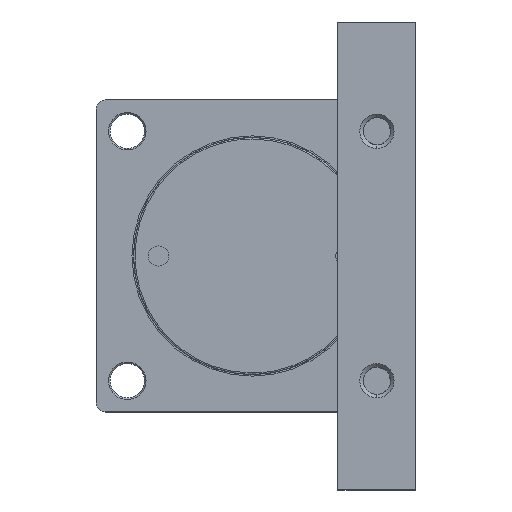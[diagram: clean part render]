
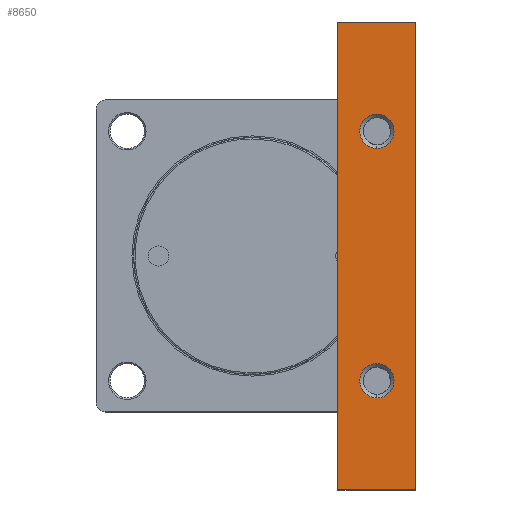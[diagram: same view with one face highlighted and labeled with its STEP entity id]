
A CAD part, left-side view. The second image highlights one B-rep face of the part: STEP entity #8650.
In plain terms, the highlighted planar face has unit normal (1, 0, 0).
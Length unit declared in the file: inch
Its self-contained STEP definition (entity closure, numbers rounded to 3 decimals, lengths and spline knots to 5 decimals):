
#357 = VECTOR ( 'NONE', #8377, 39.37008 ) ;
#673 = CARTESIAN_POINT ( 'NONE',  ( -3.3622, -4.13386, 5.90551 ) ) ;
#699 = ORIENTED_EDGE ( 'NONE', *, *, #5279, .T. ) ;
#783 = CIRCLE ( 'NONE', #12707, 0.43307 ) ;
#1022 = VERTEX_POINT ( 'NONE', #14701 ) ;
#1155 = CIRCLE ( 'NONE', #5829, 0.43307 ) ;
#1207 = FACE_BOUND ( 'NONE', #3628, .T. ) ;
#1228 = ORIENTED_EDGE ( 'NONE', *, *, #7526, .T. ) ;
#1531 = ORIENTED_EDGE ( 'NONE', *, *, #4259, .T. ) ;
#1683 = ORIENTED_EDGE ( 'NONE', *, *, #7074, .T. ) ;
#2587 = ORIENTED_EDGE ( 'NONE', *, *, #5501, .T. ) ;
#2954 = FACE_OUTER_BOUND ( 'NONE', #3356, .T. ) ;
#3356 = EDGE_LOOP ( 'NONE', ( #7929, #8301, #4352, #1683 ) ) ;
#3453 = CARTESIAN_POINT ( 'NONE',  ( -3.3622, -2.16535, -5.90551 ) ) ;
#3628 = EDGE_LOOP ( 'NONE', ( #1228, #1531 ) ) ;
#4259 = EDGE_CURVE ( 'NONE', #14763, #12111, #10351, .T. ) ;
#4328 = VERTEX_POINT ( 'NONE', #7811 ) ;
#4352 = ORIENTED_EDGE ( 'NONE', *, *, #6674, .T. ) ;
#5115 = EDGE_LOOP ( 'NONE', ( #2587, #699 ) ) ;
#5279 = EDGE_CURVE ( 'NONE', #14534, #4328, #1155, .T. ) ;
#5501 = EDGE_CURVE ( 'NONE', #4328, #14534, #12350, .T. ) ;
#5829 = AXIS2_PLACEMENT_3D ( 'NONE', #12027, #12011, #11991 ) ;
#6674 = EDGE_CURVE ( 'NONE', #8278, #14185, #14173, .T. ) ;
#6681 = DIRECTION ( 'NONE',  ( 0., 0., 1. ) ) ;
#6686 = DIRECTION ( 'NONE',  ( -1., 0., 0. ) ) ;
#6703 = CARTESIAN_POINT ( 'NONE',  ( -3.3622, -3.14961, 3.14961 ) ) ;
#7074 = EDGE_CURVE ( 'NONE', #14185, #8639, #14626, .T. ) ;
#7123 = EDGE_CURVE ( 'NONE', #1022, #8278, #14878, .T. ) ;
#7505 = AXIS2_PLACEMENT_3D ( 'NONE', #7977, #7956, #7941 ) ;
#7526 = EDGE_CURVE ( 'NONE', #12111, #14763, #783, .T. ) ;
#7811 = CARTESIAN_POINT ( 'NONE',  ( -3.3622, -3.14961, -2.71654 ) ) ;
#7881 = DIRECTION ( 'NONE',  ( 0., 0., 1. ) ) ;
#7896 = DIRECTION ( 'NONE',  ( -1., 0., 0. ) ) ;
#7898 = CARTESIAN_POINT ( 'NONE',  ( -3.3622, -3.14961, -3.14961 ) ) ;
#7929 = ORIENTED_EDGE ( 'NONE', *, *, #12547, .T. ) ;
#7941 = DIRECTION ( 'NONE',  ( 0., 0., 1. ) ) ;
#7956 = DIRECTION ( 'NONE',  ( -1., 0., 0. ) ) ;
#7977 = CARTESIAN_POINT ( 'NONE',  ( -3.3622, -3.14961, 3.14961 ) ) ;
#8278 = VERTEX_POINT ( 'NONE', #673 ) ;
#8301 = ORIENTED_EDGE ( 'NONE', *, *, #7123, .T. ) ;
#8377 = DIRECTION ( 'NONE',  ( 0., 0., 1. ) ) ;
#8426 = CARTESIAN_POINT ( 'NONE',  ( -3.3622, -2.16535, 5.90551 ) ) ;
#8567 = AXIS2_PLACEMENT_3D ( 'NONE', #7898, #7896, #7881 ) ;
#8639 = VERTEX_POINT ( 'NONE', #3453 ) ;
#8650 = ADVANCED_FACE ( 'NONE', ( #2954, #1207, #8679 ), #14573, .T. ) ;
#8679 = FACE_BOUND ( 'NONE', #5115, .T. ) ;
#10351 = CIRCLE ( 'NONE', #7505, 0.43307 ) ;
#10469 = CARTESIAN_POINT ( 'NONE',  ( -3.3622, -3.14961, 3.58268 ) ) ;
#10906 = CARTESIAN_POINT ( 'NONE',  ( -3.3622, -4.13386, 5.90551 ) ) ;
#10918 = DIRECTION ( 'NONE',  ( 0., -1., 0. ) ) ;
#11065 = CARTESIAN_POINT ( 'NONE',  ( -3.3622, -4.13386, -5.90551 ) ) ;
#11097 = DIRECTION ( 'NONE',  ( 0., 1., 0. ) ) ;
#11317 = CARTESIAN_POINT ( 'NONE',  ( -3.3622, -3.14961, 2.71654 ) ) ;
#11847 = AXIS2_PLACEMENT_3D ( 'NONE', #14556, #14552, #14535 ) ;
#11991 = DIRECTION ( 'NONE',  ( 0., 0., 1. ) ) ;
#12011 = DIRECTION ( 'NONE',  ( -1., 0., 0. ) ) ;
#12027 = CARTESIAN_POINT ( 'NONE',  ( -3.3622, -3.14961, -3.14961 ) ) ;
#12111 = VERTEX_POINT ( 'NONE', #10469 ) ;
#12350 = CIRCLE ( 'NONE', #8567, 0.43307 ) ;
#12547 = EDGE_CURVE ( 'NONE', #8639, #1022, #13718, .T. ) ;
#12659 = CARTESIAN_POINT ( 'NONE',  ( -3.3622, -3.14961, -3.58268 ) ) ;
#12707 = AXIS2_PLACEMENT_3D ( 'NONE', #6703, #6686, #6681 ) ;
#12712 = CARTESIAN_POINT ( 'NONE',  ( -3.3622, -4.13386, -5.90551 ) ) ;
#13718 = LINE ( 'NONE', #8426, #357 ) ;
#14173 = LINE ( 'NONE', #14704, #14270 ) ;
#14185 = VERTEX_POINT ( 'NONE', #12712 ) ;
#14270 = VECTOR ( 'NONE', #14700, 39.37008 ) ;
#14534 = VERTEX_POINT ( 'NONE', #12659 ) ;
#14535 = DIRECTION ( 'NONE',  ( 0., 0., -1. ) ) ;
#14552 = DIRECTION ( 'NONE',  ( 1., 0., 0. ) ) ;
#14556 = CARTESIAN_POINT ( 'NONE',  ( -3.3622, -4.13386, 5.90551 ) ) ;
#14573 = PLANE ( 'NONE',  #11847 ) ;
#14626 = LINE ( 'NONE', #11065, #14803 ) ;
#14700 = DIRECTION ( 'NONE',  ( 0., 0., -1. ) ) ;
#14701 = CARTESIAN_POINT ( 'NONE',  ( -3.3622, -2.16535, 5.90551 ) ) ;
#14704 = CARTESIAN_POINT ( 'NONE',  ( -3.3622, -4.13386, 5.90551 ) ) ;
#14763 = VERTEX_POINT ( 'NONE', #11317 ) ;
#14803 = VECTOR ( 'NONE', #11097, 39.37008 ) ;
#14813 = VECTOR ( 'NONE', #10918, 39.37008 ) ;
#14878 = LINE ( 'NONE', #10906, #14813 ) ;
